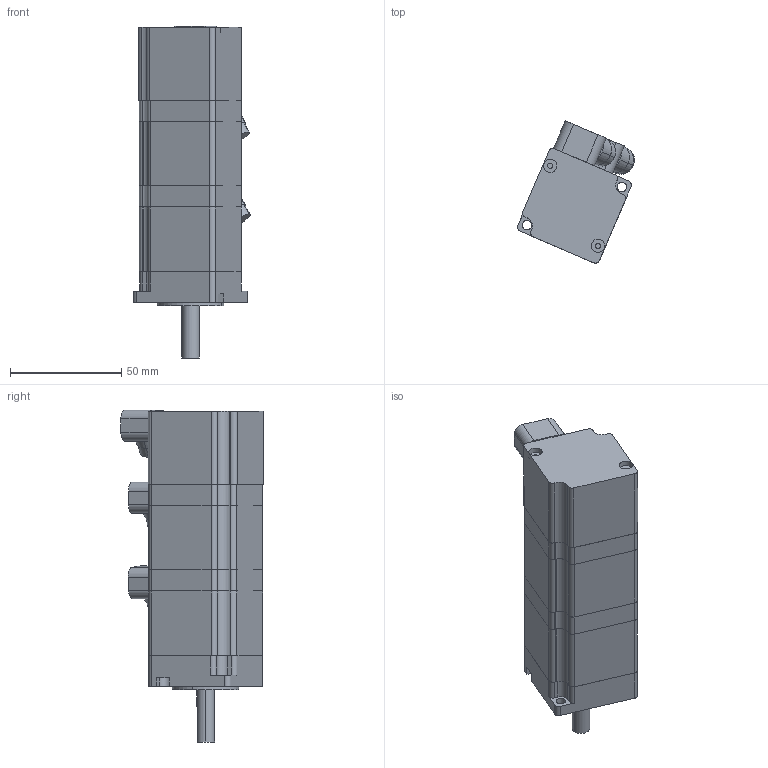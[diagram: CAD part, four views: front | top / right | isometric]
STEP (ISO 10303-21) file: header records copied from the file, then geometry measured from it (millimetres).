
FILE_DESCRIPTION (( 'STEP AP203' ), '1' );
FILE_NAME ('40-100Wｱｧﾕ｢.STEP', '2021-01-20T06:49:40', ( 'ﾎ｢ﾈ橆ﾃｻｧ' ), ( 'ﾎ｢ﾈ晥ｫﾋｾ' ), 'SwSTEP 2.0', 'SolidWorks 2016', '' );
FILE_SCHEMA (( 'CONFIG_CONTROL_DESIGN' ));
Length unit declared in the file: millimetre
Products named in the file (10): 100W粣; 儂褲1; ヶ裔; 綴裔; 揤啣; 誘欶; 粣創608Z; 揤盄啣; 粣創688Z; 40-100W惕掅
Assembly tree (13 placements, depth 2):
  40-100W惕掅
    100W粣
    ヶ裔
    揤啣
    粣創608Z
    粣創688Z
    儂褲1  x2
    綴裔  x2
    誘欶
    揤盄啣  x3
Bounding box: 52.63 x 64.1 x 149.5 mm (x, y, z)
Volume: 101593.6 mm3; surface area: 60559.1 mm2
Topology: 13 solids, 13 shells, 395 faces, 1017 edges, 663 vertices
Faces by surface type: cylinder 241, plane 136, cone 18
Entity records: 9802 total; most frequent: DIRECTION 1618, CARTESIAN_POINT 1528, ORIENTED_EDGE 1398, EDGE_CURVE 699, AXIS2_PLACEMENT_3D 633, VERTEX_POINT 463, VECTOR 352, LINE 352
